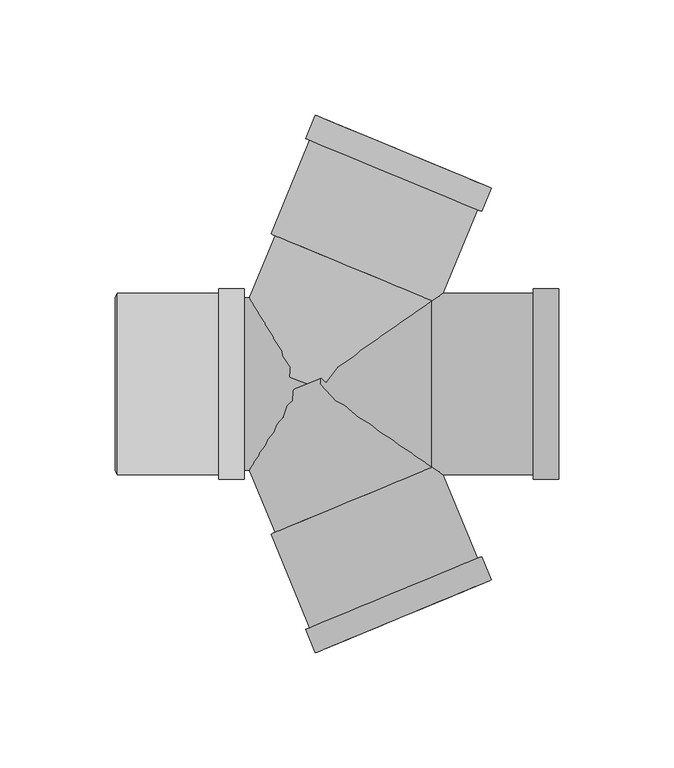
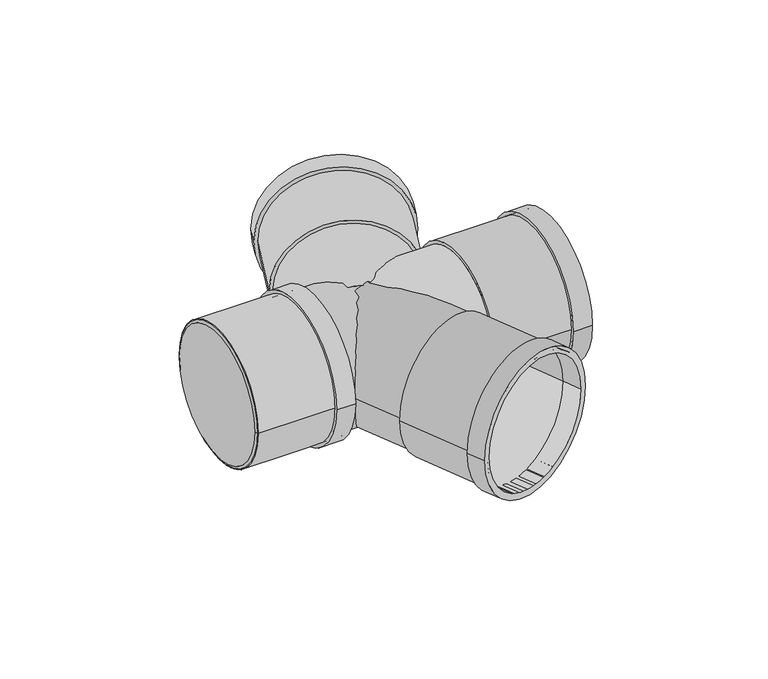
"""IFC4 building model written with IfcOpenShell, lengths in millimetres: pipe fitting geometry, Superdrain HTDA-Double Branch : Superdrain HTDA-Double Branch."""

import ifcopenshell
import ifcopenshell.guid

model = None  # the IFC model being written
_history = None  # IfcOwnerHistory: only IFC2X3 demands one
_inside = {}  # id of a spatial element -> (the spatial element, [elements in it])
_under = {}  # id of a project, library or spatial element -> (it, [spatial elements below it])
_declared = {}  # id of a project -> (the project, [libraries it declares])
_typed = {}  # id of a type object -> (the type object, [elements of that type])
_made_of = {}  # id of a material, layer set ... -> (it, [elements and type objects made of it])


def new_model(schema):
    """Start an empty IFC model of exactly this schema.

    Asked for "IFC4X3", IfcOpenShell would pick the latest addendum, in which some entities
    have other attributes; the version numbers below select the first issue.
    IFC2X3 requires an IfcOwnerHistory on every rooted entity: one is made here for all.
    """
    global model, _history
    if schema == "IFC4X3":
        model = ifcopenshell.file(schema_version=(4, 3, 0, 0))
    else:
        model = ifcopenshell.file(schema=schema)
    _inside.clear()
    _under.clear()
    _declared.clear()
    _typed.clear()
    _made_of.clear()
    _history = None
    if model.schema == "IFC2X3":
        org = make("IfcOrganization", Name="unknown")
        user = make(
            "IfcPersonAndOrganization",
            ThePerson=make("IfcPerson", FamilyName="unknown"),
            TheOrganization=org,
        )
        app = make(
            "IfcApplication",
            ApplicationDeveloper=org,
            Version="unknown",
            ApplicationFullName="unknown",
            ApplicationIdentifier="unknown",
        )
        _history = make(
            "IfcOwnerHistory",
            OwningUser=user,
            OwningApplication=app,
            ChangeAction="ADDED",
            CreationDate=0,
        )
    return model


def make(cls, **values):
    """One entity of the class cls with the attributes given. An attribute that is None is left unset."""
    return model.create_entity(
        cls, **{name: value for name, value in values.items() if value is not None}
    )


def rooted(cls, **values):
    """An entity with a GlobalId (a new one), such as an element, a storey or a relation."""
    return make(cls, GlobalId=ifcopenshell.guid.new(), OwnerHistory=_history, **values)


def si_unit(unit_type, name, prefix=None):
    """IfcSIUnit, for example si_unit("LENGTHUNIT", "METRE", prefix="MILLI")."""
    return make("IfcSIUnit", UnitType=unit_type, Prefix=prefix, Name=name)


def assignment(units):
    """IfcUnitAssignment: the units of a project."""
    return None if units is None else make("IfcUnitAssignment", Units=units)


def point(xyz):
    """IfcCartesianPoint."""
    return None if xyz is None else make("IfcCartesianPoint", Coordinates=xyz)


def direction(xyz):
    """IfcDirection."""
    return None if xyz is None else make("IfcDirection", DirectionRatios=xyz)


def frame(location, z_axis=None, x_axis=None):
    """IfcAxis2Placement3D, a coordinate frame: its origin and axes. An axis left out is left unset."""
    return make(
        "IfcAxis2Placement3D",
        Location=point(location),
        Axis=direction(z_axis),
        RefDirection=direction(x_axis),
    )


def frame_2d(location, x_axis=None):
    """IfcAxis2Placement2D, a coordinate frame in the plane: its origin and x axis."""
    return make(
        "IfcAxis2Placement2D", Location=point(location), RefDirection=direction(x_axis)
    )


def origin():
    """The frame at (0, 0, 0) with its axes left unset."""
    return frame((0.0, 0.0, 0.0))


def origin_2d():
    """The frame at (0, 0) in the plane with its x axis left unset."""
    return frame_2d((0.0, 0.0))


def place(relative_to, where):
    """IfcLocalPlacement: puts the frame where relative to a parent placement (None: the world)."""
    return make(
        "IfcLocalPlacement", PlacementRelTo=relative_to, RelativePlacement=where
    )


def context(
    kind, dimensions, precision=None, world=None, true_north=None, identifier=None
):
    """IfcGeometricRepresentationContext, for example the 3D "Model" context."""
    return make(
        "IfcGeometricRepresentationContext",
        ContextIdentifier=identifier,
        ContextType=kind,
        CoordinateSpaceDimension=dimensions,
        Precision=precision,
        WorldCoordinateSystem=world,
        TrueNorth=true_north,
    )


def project(units=None, contexts=None):
    """IfcProject with its units and contexts."""
    return rooted(
        "IfcProject",
        Name="project",
        RepresentationContexts=contexts,
        UnitsInContext=assignment(units),
    )


def spatial(cls, under=None, at=None, **own):
    """A site, building, storey or space (cls), placed at a placement, below another one or the project."""
    s = rooted(cls, ObjectPlacement=at, **own)
    if under is not None:
        _under.setdefault(under.id(), (under, []))[1].append(s)
    return s


def polyline(points):
    """IfcPolyline through the points."""
    return make("IfcPolyline", Points=[point(p) for p in points])


def circle_curve(where, radius):
    """IfcCircle in the frame where."""
    return make("IfcCircle", Position=where, Radius=radius)


def trimmed(basis, trim1, trim2, sense, master):
    """IfcTrimmedCurve: the piece of a basis curve between two trims."""
    return make(
        "IfcTrimmedCurve",
        BasisCurve=basis,
        Trim1=trim1,
        Trim2=trim2,
        SenseAgreement=sense,
        MasterRepresentation=master,
    )


def segment(curve, same_sense, transition):
    """IfcCompositeCurveSegment."""
    return make(
        "IfcCompositeCurveSegment",
        Transition=transition,
        SameSense=same_sense,
        ParentCurve=curve,
    )


def composite_curve(segments, self_intersect=None):
    """IfcCompositeCurve: segments joined end to end."""
    return make("IfcCompositeCurve", Segments=segments, SelfIntersect=self_intersect)


def outline(outer, holes=None, kind="AREA"):
    """IfcArbitraryClosedProfileDef: a profile drawn as a closed curve; with holes, ...WithVoids."""
    if holes is None:
        return make("IfcArbitraryClosedProfileDef", ProfileType=kind, OuterCurve=outer)
    return make(
        "IfcArbitraryProfileDefWithVoids",
        ProfileType=kind,
        OuterCurve=outer,
        InnerCurves=holes,
    )


def extrude(swept, where, along, depth):
    """IfcExtrudedAreaSolid: the profile swept, set in the frame where, extruded along a direction by depth."""
    return make(
        "IfcExtrudedAreaSolid",
        SweptArea=swept,
        Position=where,
        ExtrudedDirection=direction(along),
        Depth=depth,
    )


def shape(context_of_items, identifier, shape_type, items):
    """IfcShapeRepresentation: the items that make up one representation, for example the "Body"."""
    return make(
        "IfcShapeRepresentation",
        ContextOfItems=context_of_items,
        RepresentationIdentifier=identifier,
        RepresentationType=shape_type,
        Items=items,
    )


def source(mapping_origin, context_of_items, identifier, shape_type, items):
    """IfcRepresentationMap: a shape defined once, which mapped items show again and again."""
    return make(
        "IfcRepresentationMap",
        MappingOrigin=mapping_origin,
        MappedRepresentation=shape(context_of_items, identifier, shape_type, items),
    )


def transform(
    local_origin,
    x_axis=None,
    y_axis=None,
    z_axis=None,
    scale=None,
    scale2=None,
    scale3=None,
    uniform=True,
):
    """IfcCartesianTransformationOperator3D, or its non-uniform kind. x_axis, y_axis, z_axis: its Axis1, 2, 3."""
    if uniform:
        return make(
            "IfcCartesianTransformationOperator3D",
            Axis1=direction(x_axis),
            Axis2=direction(y_axis),
            LocalOrigin=point(local_origin),
            Scale=scale,
            Axis3=direction(z_axis),
        )
    return make(
        "IfcCartesianTransformationOperator3DnonUniform",
        Axis1=direction(x_axis),
        Axis2=direction(y_axis),
        LocalOrigin=point(local_origin),
        Scale=scale,
        Axis3=direction(z_axis),
        Scale2=scale2,
        Scale3=scale3,
    )


def mapped(mapping_source, mapping_target):
    """IfcMappedItem: shows the shape of a source again, moved by a transform."""
    return make(
        "IfcMappedItem", MappingSource=mapping_source, MappingTarget=mapping_target
    )


def made_of(thing, what):
    """Note that an element or type object is made of a material, layer set ...; save() writes the relation."""
    if what is not None:
        _made_of.setdefault(what.id(), (what, []))[1].append(thing)
    return thing


def element(
    cls,
    number,
    at=None,
    inside=None,
    cuts=None,
    type_object=None,
    material=None,
    context=None,
    identifier="Body",
    shape_type=None,
    held_by="IfcProductDefinitionShape",
    body=None,
    shapes=None,
    **own,
):
    """One element of the class cls, such as IfcWall. Its Tag is "e" and its number.

    at: its placement. inside: the storey or other place that contains it. cuts: it is an
    opening in that element (IfcRelVoidsElement). A single representation is given by context,
    identifier, shape_type and body (its items); several are given by shapes. held_by: the class
    of the entity that holds the representations. save() writes the other relations.
    """
    e = rooted(cls, Tag="e%d" % number, ObjectPlacement=at, **own)
    if body is not None:
        shapes = [shape(context, identifier, shape_type, body)]
    if shapes is not None:
        e.Representation = make(held_by, Representations=shapes)
    if inside is not None:
        _inside.setdefault(inside.id(), (inside, []))[1].append(e)
    if cuts is not None:
        rooted(
            "IfcRelVoidsElement", RelatingBuildingElement=cuts, RelatedOpeningElement=e
        )
    if type_object is not None:
        _typed.setdefault(type_object.id(), (type_object, []))[1].append(e)
    return made_of(e, material)


def aggregate(whole, parts):
    """IfcRelAggregates: a whole, such as a stair, and the parts it consists of."""
    return rooted("IfcRelAggregates", RelatingObject=whole, RelatedObjects=parts)


def save(model, path):
    """Write the relations noted so far, then the file.

    IfcRelAggregates (storeys below a building ...), IfcRelContainedInSpatialStructure (elements
    in a storey), IfcRelDefinesByType, IfcRelAssociatesMaterial and IfcRelDeclares: one each for
    every whole, place, type object, material and project.
    """
    for whole, parts in _under.values():
        aggregate(whole, parts)
    for where, things in _inside.values():
        rooted(
            "IfcRelContainedInSpatialStructure",
            RelatedElements=things,
            RelatingStructure=where,
        )
    for kind, things in _typed.values():
        rooted("IfcRelDefinesByType", RelatedObjects=things, RelatingType=kind)
    for what, things in _made_of.values():
        rooted("IfcRelAssociatesMaterial", RelatedObjects=things, RelatingMaterial=what)
    for by, libraries in _declared.values():
        rooted("IfcRelDeclares", RelatingContext=by, RelatedDefinitions=libraries)
    model.write(path)


def plane_surface(at):
    """IfcPlane: the flat surface through the origin of the frame at, square to its z axis."""
    return make("IfcPlane", Position=at)


def revolved_surface(curve, axis_point, axis_direction):
    """IfcSurfaceOfRevolution: the curve turned about the line through axis_point along axis_direction."""
    return make(
        "IfcSurfaceOfRevolution",
        SweptCurve=make("IfcArbitraryOpenProfileDef", ProfileType="CURVE", Curve=curve),
        AxisPosition=make("IfcAxis1Placement", Location=point(axis_point), Axis=direction(axis_direction)),
    )


def advanced_brep(points, edges, surfaces, faces):
    """IfcAdvancedBrep: a solid bounded by faces that lie on surfaces and meet in shared edges.

    An edge is (start, end): straight between two places in points (the first is 0);
    or (start, end, curve); or (start, end, curve, False) where it runs against its curve.
    A face is (place in surfaces, loops), or (place, loops, False) where it looks against
    its surface's normal. A loop lists edges by number (the first is 1), with a minus sign
    where the edge is run from its end to its start. The first loop is the outer one.
    """
    corners = [point(p) for p in points]
    vertices = [make("IfcVertexPoint", VertexGeometry=c) for c in corners]
    made = []
    for start, end, *more in edges:
        made.append(
            make(
                "IfcEdgeCurve",
                EdgeStart=vertices[start],
                EdgeEnd=vertices[end],
                EdgeGeometry=more[0] if more else make("IfcPolyline", Points=[corners[start], corners[end]]),
                SameSense=more[1] if len(more) > 1 else True,
            )
        )
    hull = []
    for where, loops, *sense in faces:
        bounds = []
        for j, loop in enumerate(loops):
            ring = [make("IfcOrientedEdge", EdgeElement=made[abs(k) - 1], Orientation=k > 0) for k in loop]
            bounds.append(
                make(
                    "IfcFaceOuterBound" if j == 0 else "IfcFaceBound",
                    Bound=make("IfcEdgeLoop", EdgeList=ring),
                    Orientation=True,
                )
            )
        hull.append(make("IfcAdvancedFace", Bounds=bounds, FaceSurface=surfaces[where], SameSense=sense[0] if sense else True))
    return make("IfcAdvancedBrep", Outer=make("IfcClosedShell", CfsFaces=hull))


def pipe_fitting_ca7c4e00(model_context):
    return source(origin(), model_context, "Body", "SolidModel", [
        extrude(outline(composite_curve([segment(trimmed(circle_curve(origin_2d(), 39.375), [point((39.375, 0.0))], [point((-39.375, 0.0))], False, "CARTESIAN"), True, "CONTINUOUS"), segment(trimmed(circle_curve(origin_2d(), 39.375), [point((-39.375, 0.0))], [point((39.375, 0.0))], False, "CARTESIAN"), True, "CONTINUOUS")], self_intersect=False), holes=[composite_curve([segment(trimmed(circle_curve(origin_2d(), 37.5), [point((37.5, 0.0))], [point((-37.5, 0.0))], True, "CARTESIAN"), True, "CONTINUOUS"), segment(trimmed(circle_curve(origin_2d(), 37.5), [point((-37.5, 0.0))], [point((37.5, 0.0))], True, "CARTESIAN"), True, "CONTINUOUS")], self_intersect=False)]), frame((-82.3, 0.0, 0.0), z_axis=(1.0, 0.0, 0.0), x_axis=(0.0, 1.0, 0.0)), (0.0, 0.0, 1.0), 55.0),
        extrude(outline(composite_curve([segment(trimmed(circle_curve(origin_2d(), 41.34375), [point((41.34375, 0.0))], [point((-41.34375, 0.0))], False, "CARTESIAN"), True, "CONTINUOUS"), segment(trimmed(circle_curve(origin_2d(), 41.34375), [point((-41.34375, 0.0))], [point((41.34375, 0.0))], False, "CARTESIAN"), True, "CONTINUOUS")], self_intersect=False), holes=[composite_curve([segment(trimmed(circle_curve(origin_2d(), 37.5), [point((37.5, 0.0))], [point((-37.5, 0.0))], True, "CARTESIAN"), True, "CONTINUOUS"), segment(trimmed(circle_curve(origin_2d(), 37.5), [point((-37.5, 0.0))], [point((37.5, 0.0))], True, "CARTESIAN"), True, "CONTINUOUS")], self_intersect=False)]), frame((-38.3, 0.0, 0.0), z_axis=(1.0, 0.0, 0.0), x_axis=(0.0, 1.0, 0.0)), (0.0, 0.0, 1.0), 11.0),
        advanced_brep(
        [(-83.3, 37.5, 0.0), (-83.3, -37.5, 0.0), (-82.3, 39.375, 0.0), (-82.3, -39.375, 0.0)],
        [
            (0, 1, circle_curve(frame((-83.3, 0.0, 0.0), z_axis=(-1.0, 0.0, 0.0), x_axis=(0.0, 1.0000000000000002, 0.0)), 37.5)),
            (1, 0, circle_curve(frame((-83.3, 0.0, 0.0), z_axis=(-1.0, 0.0, 0.0), x_axis=(0.0, -1.0000000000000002, 0.0)), 37.5)),
            (2, 3, circle_curve(frame((-82.3, 0.0, 0.0), z_axis=(1.0, 0.0, 0.0), x_axis=(0.0, -1.0000000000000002, 0.0)), 39.375)),
            (3, 2, circle_curve(frame((-82.3, 0.0, 0.0), z_axis=(1.0, 0.0, 0.0), x_axis=(0.0, 1.0000000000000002, 0.0)), 39.375)),
            (3, 1),
            (0, 2),
        ],
        [
            plane_surface(frame((-83.3, 0.0, 0.0), z_axis=(-1.0, 0.0, 0.0), x_axis=(0.0, 0.0, -1.0))),
            plane_surface(frame((-82.3, 0.0, 0.0), z_axis=(1.0, 0.0, 0.0), x_axis=(0.0, 0.0, -1.0))),
            revolved_surface(polyline([(-83.3, 37.5, 0.0), (-82.3, 39.375, 0.0)]), (-103.3, 0.0, 0.0), (1.0000000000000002, 0.0, 0.0)),
            revolved_surface(polyline([(-83.3, -37.5, 0.0), (-82.3, -39.375, 0.0)]), (-103.3, 0.0, 0.0), (1.0000000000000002, 0.0, 0.0)),
        ],
        [
            (0, [[1, 2]]),
            (1, [[3, 4]]),
            (2, [[-4, 5, -1, 6]]),
            (3, [[-3, -6, -2, -5]]),
        ],
    ),
        extrude(outline(composite_curve([segment(trimmed(circle_curve(origin_2d(), 41.34375), [point((0.0, -41.34375))], [point((0.0, 41.34375))], False, "CARTESIAN"), True, "CONTINUOUS"), segment(trimmed(circle_curve(origin_2d(), 41.34375), [point((0.0, 41.34375))], [point((0.0, -41.34375))], False, "CARTESIAN"), True, "CONTINUOUS")], self_intersect=False), holes=[composite_curve([segment(trimmed(circle_curve(origin_2d(), 37.5), [point((0.0, -37.5))], [point((0.0, 37.5000001))], True, "CARTESIAN"), True, "CONTINUOUS"), segment(trimmed(circle_curve(origin_2d(), 37.5), [point((0.0, 37.5000001))], [point((0.0, -37.5))], True, "CARTESIAN"), True, "CONTINUOUS")], self_intersect=False)]), frame((41.7890308, -100.887645, 0.0), z_axis=(-0.3826834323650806, 0.9238795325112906, 0.0), x_axis=(0.0, 0.0, 1.0)), (0.0, 0.0, 1.0), 11.0),
        extrude(outline(composite_curve([segment(trimmed(circle_curve(origin_2d(), 39.375), [point((0.0, -39.375))], [point((0.0, 39.375))], False, "CARTESIAN"), True, "CONTINUOUS"), segment(trimmed(circle_curve(origin_2d(), 39.375), [point((0.0, 39.375))], [point((0.0, -39.375))], False, "CARTESIAN"), True, "CONTINUOUS")], self_intersect=False), holes=[composite_curve([segment(trimmed(circle_curve(origin_2d(), 37.5), [point((0.0, -37.5))], [point((0.0, 37.5000001))], True, "CARTESIAN"), True, "CONTINUOUS"), segment(trimmed(circle_curve(origin_2d(), 37.5), [point((0.0, 37.5000001))], [point((0.0, -37.5))], True, "CARTESIAN"), True, "CONTINUOUS")], self_intersect=False)]), frame((41.7890308, -100.887645, 0.0), z_axis=(-0.38268343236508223, 0.92387953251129, 0.0), x_axis=(0.0, 0.0, 1.0)), (0.0, 0.0, 1.0), 55.0),
        extrude(outline(composite_curve([segment(trimmed(circle_curve(origin_2d(), 37.5), [point((0.0, -37.4999999))], [point((0.0, 37.5000001))], False, "CARTESIAN"), True, "CONTINUOUS"), segment(trimmed(circle_curve(origin_2d(), 37.5), [point((0.0, 37.5000001))], [point((0.0, -37.4999999))], False, "CARTESIAN"), True, "CONTINUOUS")], self_intersect=False)), frame((20.741442, -50.0742707, 0.0), z_axis=(-0.38268343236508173, 0.9238795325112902, 0.0), x_axis=(0.0, 0.0, 1.0)), (0.0, 0.0, 1.0), 54.2),
        extrude(outline(composite_curve([segment(trimmed(circle_curve(origin_2d(), 41.34375), [point((0.0, 41.34375))], [point((0.0, -41.3437501))], False, "CARTESIAN"), True, "CONTINUOUS"), segment(trimmed(circle_curve(origin_2d(), 41.34375), [point((0.0, -41.3437501))], [point((0.0, 41.34375))], False, "CARTESIAN"), True, "CONTINUOUS")], self_intersect=False), holes=[composite_curve([segment(trimmed(circle_curve(origin_2d(), 37.5), [point((0.0, 37.4999999))], [point((0.0, -37.5))], True, "CARTESIAN"), True, "CONTINUOUS"), segment(trimmed(circle_curve(origin_2d(), 37.5), [point((0.0, -37.5))], [point((0.0, 37.4999999))], True, "CARTESIAN"), True, "CONTINUOUS")], self_intersect=False)]), frame((37.5795131, 90.7249701, 0.0), z_axis=(0.38268343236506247, 0.9238795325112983, 0.0), x_axis=(0.0, 0.0, 1.0)), (0.0, 0.0, 1.0), 11.0),
        extrude(outline(composite_curve([segment(trimmed(circle_curve(origin_2d(), 39.375), [point((0.0, 39.375))], [point((0.0, -39.375))], False, "CARTESIAN"), True, "CONTINUOUS"), segment(trimmed(circle_curve(origin_2d(), 39.375), [point((0.0, -39.375))], [point((0.0, 39.375))], False, "CARTESIAN"), True, "CONTINUOUS")], self_intersect=False), holes=[composite_curve([segment(trimmed(circle_curve(origin_2d(), 37.5), [point((0.0, 37.5000001))], [point((0.0, -37.4999999))], True, "CARTESIAN"), True, "CONTINUOUS"), segment(trimmed(circle_curve(origin_2d(), 37.5), [point((0.0, -37.4999999))], [point((0.0, 37.5000001))], True, "CARTESIAN"), True, "CONTINUOUS")], self_intersect=False)]), frame((20.741442, 50.0742707, 0.0), z_axis=(0.3826834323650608, 0.9238795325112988, 0.0), x_axis=(0.0, 0.0, 1.0)), (0.0, 0.0, 1.0), 55.0),
        extrude(outline(composite_curve([segment(trimmed(circle_curve(origin_2d(), 37.5), [point((0.0, 37.5))], [point((0.0, -37.5))], False, "CARTESIAN"), True, "CONTINUOUS"), segment(trimmed(circle_curve(origin_2d(), 37.5), [point((0.0, -37.5))], [point((0.0, 37.5))], False, "CARTESIAN"), True, "CONTINUOUS")], self_intersect=False)), frame((0.0, 0.0, 0.0), z_axis=(0.38268343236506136, 0.9238795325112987, 0.0), x_axis=(0.0, 0.0, 1.0)), (0.0, 0.0, 1.0), 54.2),
        extrude(outline(composite_curve([segment(trimmed(circle_curve(origin_2d(), 41.34375), [point((-41.34375, 0.0))], [point((41.34375, 0.0))], False, "CARTESIAN"), True, "CONTINUOUS"), segment(trimmed(circle_curve(origin_2d(), 41.34375), [point((41.34375, 0.0))], [point((-41.34375, 0.0))], False, "CARTESIAN"), True, "CONTINUOUS")], self_intersect=False), holes=[composite_curve([segment(trimmed(circle_curve(origin_2d(), 39.375), [point((-39.375, 0.0))], [point((39.375, 0.0))], True, "CARTESIAN"), True, "CONTINUOUS"), segment(trimmed(circle_curve(origin_2d(), 39.375), [point((39.375, 0.0))], [point((-39.375, 0.0))], True, "CARTESIAN"), True, "CONTINUOUS")], self_intersect=False)]), frame((98.2, 0.0, 0.0), z_axis=(1.0, 0.0, 0.0), x_axis=(0.0, 1.0, 0.0)), (0.0, 0.0, 1.0), 11.0),
        extrude(outline(composite_curve([segment(trimmed(circle_curve(origin_2d(), 39.375), [point((-39.375, 0.0))], [point((39.375, 0.0))], False, "CARTESIAN"), True, "CONTINUOUS"), segment(trimmed(circle_curve(origin_2d(), 39.375), [point((39.375, 0.0))], [point((-39.375, 0.0))], False, "CARTESIAN"), True, "CONTINUOUS")], self_intersect=False), holes=[composite_curve([segment(trimmed(circle_curve(origin_2d(), 37.5), [point((-37.5, 0.0))], [point((37.5, 0.0))], True, "CARTESIAN"), True, "CONTINUOUS"), segment(trimmed(circle_curve(origin_2d(), 37.5), [point((37.5, 0.0))], [point((-37.5, 0.0))], True, "CARTESIAN"), True, "CONTINUOUS")], self_intersect=False)]), frame((54.2, 0.0, 0.0), z_axis=(1.0, 0.0, 0.0), x_axis=(0.0, 1.0, 0.0)), (0.0, 0.0, 1.0), 55.0),
        extrude(outline(composite_curve([segment(trimmed(circle_curve(origin_2d(), 37.5), [point((-37.5, 0.0))], [point((37.5, 0.0))], False, "CARTESIAN"), True, "CONTINUOUS"), segment(trimmed(circle_curve(origin_2d(), 37.5), [point((37.5, 0.0))], [point((-37.5, 0.0))], False, "CARTESIAN"), True, "CONTINUOUS")], self_intersect=False)), frame((0.0, 0.0, 0.0), z_axis=(1.0, 0.0, 0.0), x_axis=(0.0, 1.0, 0.0)), (0.0, 0.0, 1.0), 54.2),
        extrude(outline(composite_curve([segment(trimmed(circle_curve(origin_2d(), 37.5), [point((-37.5, 0.0))], [point((37.5, 0.0))], False, "CARTESIAN"), True, "CONTINUOUS"), segment(trimmed(circle_curve(origin_2d(), 37.5), [point((37.5, 0.0))], [point((-37.5, 0.0))], False, "CARTESIAN"), True, "CONTINUOUS")], self_intersect=False)), frame((-82.3, 0.0, 0.0), z_axis=(1.0, 0.0, 0.0), x_axis=(0.0, 1.0, 0.0)), (0.0, 0.0, 1.0), 82.3),
    ])


if __name__ == "__main__":
    model = new_model("IFC4")
    model_context = context("Model", 3, world=origin())
    ifc_project = project(units=[si_unit("LENGTHUNIT", "METRE", prefix="MILLI")], contexts=[model_context])
    site = spatial("IfcSite", under=ifc_project)
    building = spatial("IfcBuilding", under=site)
    placement = place(None, origin())
    pipe_fitting_shape = pipe_fitting_ca7c4e00(model_context)
    element("IfcPipeFitting", 1, ObjectType="Superdrain HTDA-Double Branch : Superdrain HTDA-Double Branch", at=placement, inside=building, context=model_context, shape_type="MappedRepresentation", body=[
        mapped(pipe_fitting_shape, transform((0.0, 0.0, 0.0), x_axis=(1.0, 0.0, 0.0), y_axis=(0.0, 1.0, 0.0), z_axis=(0.0, 0.0, 1.0))),
    ])
    save(model, "model.ifc")
